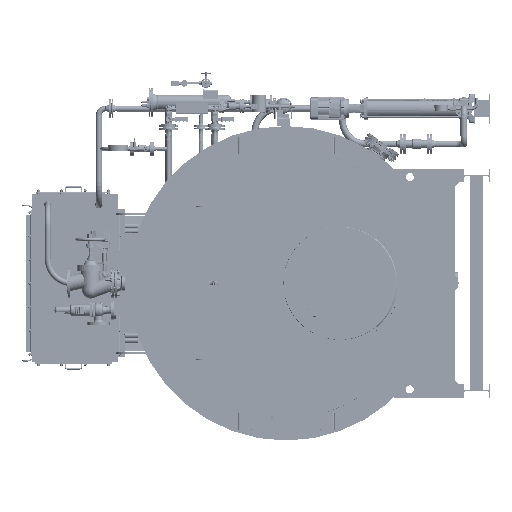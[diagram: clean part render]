
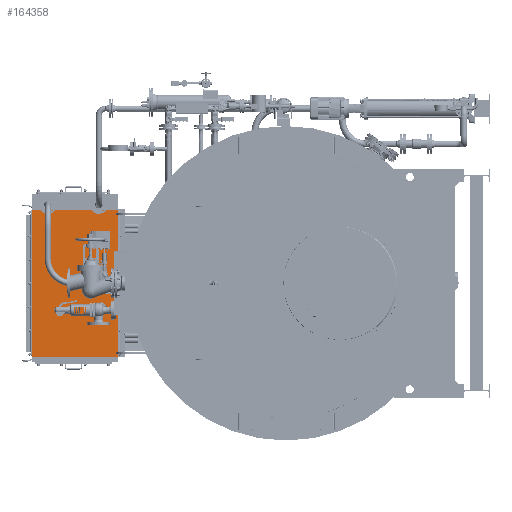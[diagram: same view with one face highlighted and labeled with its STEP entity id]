
A CAD part, left-side view. The second image highlights one B-rep face of the part: STEP entity #164358.
In plain terms, the highlighted planar face has unit normal (-1, 0, 0).
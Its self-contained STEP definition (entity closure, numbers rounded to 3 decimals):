
#164358=ADVANCED_FACE('',(#378170),#378172,.T.);
#378170=FACE_BOUND('',#378171,.T.);
#378171=EDGE_LOOP('',(#485291,#485292,#485293,#485294));
#378172=PLANE('',#378173);
#378173=AXIS2_PLACEMENT_3D('',#378174,#378175,#378176);
#378174=CARTESIAN_POINT('',(502.,1653.,548.5));
#378175=DIRECTION('',(-1.,0.,0.));
#378176=DIRECTION('',(0.,1.,0.));
#485291=ORIENTED_EDGE('',*,*,#538883,.T.);
#485292=ORIENTED_EDGE('',*,*,#538881,.T.);
#485293=ORIENTED_EDGE('',*,*,#538908,.F.);
#485294=ORIENTED_EDGE('',*,*,#538909,.F.);
#538881=EDGE_CURVE('',#613175,#613196,#613198,.T.);
#538883=EDGE_CURVE('',#613201,#613175,#613202,.T.);
#538908=EDGE_CURVE('',#613239,#613196,#613241,.T.);
#538909=EDGE_CURVE('',#613201,#613239,#613242,.T.);
#613175=VERTEX_POINT('',#1407249);
#613196=VERTEX_POINT('',#1407290);
#613198=LINE('',#1407294,#1407295);
#613201=VERTEX_POINT('',#1407301);
#613202=LINE('',#1407302,#1407303);
#613239=VERTEX_POINT('',#1407391);
#613241=LINE('',#1407395,#1407396);
#613242=LINE('',#1407398,#1407399);
#1407249=CARTESIAN_POINT('',(502.,2293.,548.5));
#1407290=CARTESIAN_POINT('',(502.,2293.,-551.5));
#1407294=CARTESIAN_POINT('',(502.,2293.,548.5));
#1407295=VECTOR('',#1407296,1.);
#1407296=DIRECTION('',(0.,0.,-1.));
#1407301=CARTESIAN_POINT('',(502.,1653.,548.5));
#1407302=CARTESIAN_POINT('',(502.,1653.,548.5));
#1407303=VECTOR('',#1407304,1.);
#1407304=DIRECTION('',(0.,1.,0.));
#1407391=CARTESIAN_POINT('',(502.,1653.,-551.5));
#1407395=CARTESIAN_POINT('',(502.,1653.,-551.5));
#1407396=VECTOR('',#1407397,1.);
#1407397=DIRECTION('',(0.,1.,0.));
#1407398=CARTESIAN_POINT('',(502.,1653.,548.5));
#1407399=VECTOR('',#1407400,1.);
#1407400=DIRECTION('',(0.,0.,-1.));
